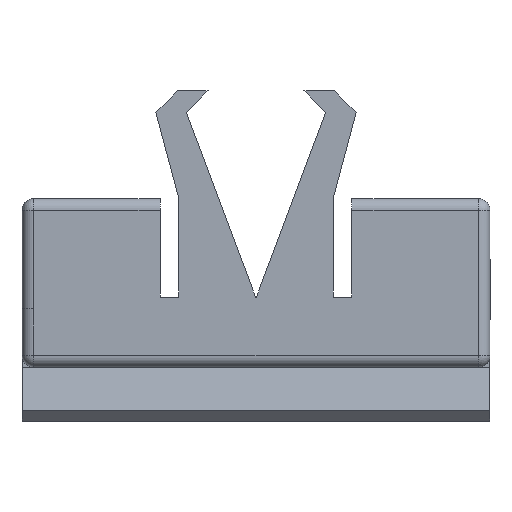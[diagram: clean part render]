
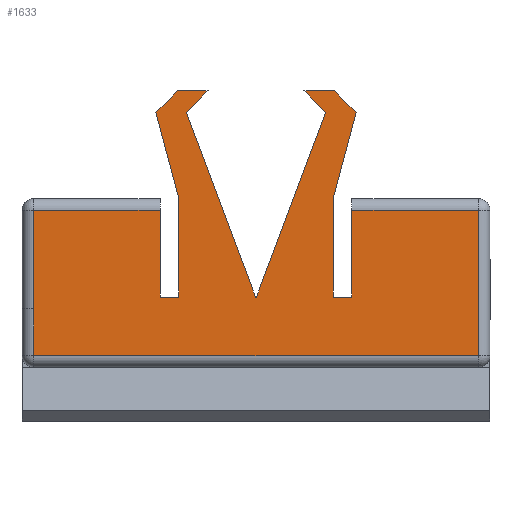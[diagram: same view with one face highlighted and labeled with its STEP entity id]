
A CAD part, left-side view. The second image highlights one B-rep face of the part: STEP entity #1633.
In plain terms, the highlighted planar face has unit normal (-1, 0, 0).
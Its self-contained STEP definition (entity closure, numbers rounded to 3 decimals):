
#138=FACE_OUTER_BOUND('',#227,.T.);
#227=EDGE_LOOP('',(#1306,#1307,#1308,#1309,#1310,#1311,#1312,#1313,#1314,
#1315,#1316,#1317,#1318,#1319,#1320,#1321,#1322,#1323,#1324,#1325,#1326,
#1327,#1328));
#367=LINE('',#2483,#565);
#369=LINE('',#2492,#567);
#391=LINE('',#2565,#589);
#392=LINE('',#2569,#590);
#393=LINE('',#2571,#591);
#394=LINE('',#2573,#592);
#395=LINE('',#2575,#593);
#396=LINE('',#2577,#594);
#397=LINE('',#2579,#595);
#398=LINE('',#2581,#596);
#399=LINE('',#2583,#597);
#400=LINE('',#2585,#598);
#401=LINE('',#2587,#599);
#402=LINE('',#2589,#600);
#403=LINE('',#2591,#601);
#404=LINE('',#2593,#602);
#405=LINE('',#2595,#603);
#406=LINE('',#2597,#604);
#407=LINE('',#2599,#605);
#408=LINE('',#2601,#606);
#409=LINE('',#2603,#607);
#410=LINE('',#2605,#608);
#411=LINE('',#2606,#609);
#565=VECTOR('',#1991,10.);
#567=VECTOR('',#2003,10.);
#589=VECTOR('',#2087,10.);
#590=VECTOR('',#2092,10.);
#591=VECTOR('',#2093,10.);
#592=VECTOR('',#2094,20.);
#593=VECTOR('',#2095,20.);
#594=VECTOR('',#2096,20.);
#595=VECTOR('',#2097,20.);
#596=VECTOR('',#2098,20.);
#597=VECTOR('',#2099,20.);
#598=VECTOR('',#2100,20.);
#599=VECTOR('',#2101,20.);
#600=VECTOR('',#2102,20.);
#601=VECTOR('',#2103,20.);
#602=VECTOR('',#2104,20.);
#603=VECTOR('',#2105,20.);
#604=VECTOR('',#2106,20.);
#605=VECTOR('',#2107,20.);
#606=VECTOR('',#2108,20.);
#607=VECTOR('',#2109,20.);
#608=VECTOR('',#2110,20.);
#609=VECTOR('',#2111,10.);
#735=VERTEX_POINT('',#2478);
#736=VERTEX_POINT('',#2481);
#738=VERTEX_POINT('',#2490);
#758=VERTEX_POINT('',#2564);
#759=VERTEX_POINT('',#2568);
#760=VERTEX_POINT('',#2570);
#761=VERTEX_POINT('',#2572);
#762=VERTEX_POINT('',#2574);
#763=VERTEX_POINT('',#2576);
#764=VERTEX_POINT('',#2578);
#765=VERTEX_POINT('',#2580);
#766=VERTEX_POINT('',#2582);
#767=VERTEX_POINT('',#2584);
#768=VERTEX_POINT('',#2586);
#769=VERTEX_POINT('',#2588);
#770=VERTEX_POINT('',#2590);
#771=VERTEX_POINT('',#2592);
#772=VERTEX_POINT('',#2594);
#773=VERTEX_POINT('',#2596);
#774=VERTEX_POINT('',#2598);
#775=VERTEX_POINT('',#2600);
#776=VERTEX_POINT('',#2602);
#777=VERTEX_POINT('',#2604);
#920=EDGE_CURVE('',#736,#735,#367,.T.);
#925=EDGE_CURVE('',#738,#736,#369,.T.);
#961=EDGE_CURVE('',#735,#758,#391,.T.);
#963=EDGE_CURVE('',#759,#738,#392,.T.);
#964=EDGE_CURVE('',#760,#759,#393,.T.);
#965=EDGE_CURVE('',#760,#761,#394,.T.);
#966=EDGE_CURVE('',#762,#761,#395,.T.);
#967=EDGE_CURVE('',#762,#763,#396,.T.);
#968=EDGE_CURVE('',#763,#764,#397,.T.);
#969=EDGE_CURVE('',#764,#765,#398,.T.);
#970=EDGE_CURVE('',#765,#766,#399,.T.);
#971=EDGE_CURVE('',#766,#767,#400,.T.);
#972=EDGE_CURVE('',#768,#767,#401,.T.);
#973=EDGE_CURVE('',#769,#768,#402,.T.);
#974=EDGE_CURVE('',#769,#770,#403,.T.);
#975=EDGE_CURVE('',#770,#771,#404,.T.);
#976=EDGE_CURVE('',#771,#772,#405,.T.);
#977=EDGE_CURVE('',#772,#773,#406,.T.);
#978=EDGE_CURVE('',#773,#774,#407,.T.);
#979=EDGE_CURVE('',#774,#775,#408,.T.);
#980=EDGE_CURVE('',#775,#776,#409,.T.);
#981=EDGE_CURVE('',#776,#777,#410,.T.);
#982=EDGE_CURVE('',#758,#777,#411,.T.);
#1306=ORIENTED_EDGE('',*,*,#963,.F.);
#1307=ORIENTED_EDGE('',*,*,#964,.F.);
#1308=ORIENTED_EDGE('',*,*,#965,.T.);
#1309=ORIENTED_EDGE('',*,*,#966,.F.);
#1310=ORIENTED_EDGE('',*,*,#967,.T.);
#1311=ORIENTED_EDGE('',*,*,#968,.T.);
#1312=ORIENTED_EDGE('',*,*,#969,.T.);
#1313=ORIENTED_EDGE('',*,*,#970,.T.);
#1314=ORIENTED_EDGE('',*,*,#971,.T.);
#1315=ORIENTED_EDGE('',*,*,#972,.F.);
#1316=ORIENTED_EDGE('',*,*,#973,.F.);
#1317=ORIENTED_EDGE('',*,*,#974,.T.);
#1318=ORIENTED_EDGE('',*,*,#975,.T.);
#1319=ORIENTED_EDGE('',*,*,#976,.T.);
#1320=ORIENTED_EDGE('',*,*,#977,.T.);
#1321=ORIENTED_EDGE('',*,*,#978,.T.);
#1322=ORIENTED_EDGE('',*,*,#979,.T.);
#1323=ORIENTED_EDGE('',*,*,#980,.T.);
#1324=ORIENTED_EDGE('',*,*,#981,.T.);
#1325=ORIENTED_EDGE('',*,*,#982,.F.);
#1326=ORIENTED_EDGE('',*,*,#961,.F.);
#1327=ORIENTED_EDGE('',*,*,#920,.F.);
#1328=ORIENTED_EDGE('',*,*,#925,.F.);
#1556=PLANE('',#1749);
#1633=ADVANCED_FACE('',(#138),#1556,.F.);
#1749=AXIS2_PLACEMENT_3D('',#2567,#2090,#2091);
#1991=DIRECTION('',(0.,0.,1.));
#2003=DIRECTION('',(0.,1.,0.));
#2087=DIRECTION('',(0.,0.,1.));
#2090=DIRECTION('center_axis',(1.,0.,0.));
#2091=DIRECTION('ref_axis',(0.,-1.,0.));
#2092=DIRECTION('',(0.,0.,-1.));
#2093=DIRECTION('',(0.,-1.,0.));
#2094=DIRECTION('',(0.,0.,-1.));
#2095=DIRECTION('',(0.,-1.,0.));
#2096=DIRECTION('',(0.,0.,1.));
#2097=DIRECTION('',(0.,-0.259,0.966));
#2098=DIRECTION('',(0.,0.707,0.707));
#2099=DIRECTION('',(0.,1.,0.));
#2100=DIRECTION('',(0.,-0.707,-0.707));
#2101=DIRECTION('',(0.,-0.351,0.936));
#2102=DIRECTION('',(0.,-1.,0.));
#2103=DIRECTION('',(0.,0.351,0.936));
#2104=DIRECTION('',(0.,-0.707,0.707));
#2105=DIRECTION('',(0.,1.,0.));
#2106=DIRECTION('',(0.,0.707,-0.707));
#2107=DIRECTION('',(0.,-0.259,-0.966));
#2108=DIRECTION('',(0.,0.,-1.));
#2109=DIRECTION('',(0.,1.,0.));
#2110=DIRECTION('',(0.,0.,1.));
#2111=DIRECTION('',(0.,-1.,0.));
#2478=CARTESIAN_POINT('',(-15.,19.5,-1.7));
#2481=CARTESIAN_POINT('',(-15.,19.5,-3.7));
#2483=CARTESIAN_POINT('',(-15.,19.5,1.153));
#2490=CARTESIAN_POINT('',(-15.,0.5,-3.7));
#2492=CARTESIAN_POINT('',(-15.,5.,-3.7));
#2564=CARTESIAN_POINT('',(-15.,19.5,2.5));
#2565=CARTESIAN_POINT('',(-15.,19.5,1.153));
#2567=CARTESIAN_POINT('Origin',(-15.,10.,2.306));
#2568=CARTESIAN_POINT('',(-15.,0.5,2.5));
#2569=CARTESIAN_POINT('',(-15.,0.5,1.153));
#2570=CARTESIAN_POINT('',(-15.,5.9,2.5));
#2571=CARTESIAN_POINT('',(-15.,7.95,2.5));
#2572=CARTESIAN_POINT('',(-15.,5.9,-1.2));
#2573=CARTESIAN_POINT('',(-15.,5.9,3.));
#2574=CARTESIAN_POINT('',(-15.,6.704,-1.2));
#2575=CARTESIAN_POINT('',(-15.,6.704,-1.2));
#2576=CARTESIAN_POINT('',(-15.,6.704,3.));
#2577=CARTESIAN_POINT('',(-15.,6.704,-1.2));
#2578=CARTESIAN_POINT('',(-15.,5.718,6.679));
#2579=CARTESIAN_POINT('',(-15.,6.704,3.));
#2580=CARTESIAN_POINT('',(-15.,6.65,7.611));
#2581=CARTESIAN_POINT('',(-15.,5.718,6.679));
#2582=CARTESIAN_POINT('',(-15.,7.95,7.611));
#2583=CARTESIAN_POINT('',(-15.,6.65,7.611));
#2584=CARTESIAN_POINT('',(-15.,7.023,6.685));
#2585=CARTESIAN_POINT('',(-15.,7.95,7.611));
#2586=CARTESIAN_POINT('',(-15.,9.98,-1.2));
#2587=CARTESIAN_POINT('',(-15.,9.98,-1.2));
#2588=CARTESIAN_POINT('',(-15.,10.02,-1.2));
#2589=CARTESIAN_POINT('',(-15.,10.,-1.2));
#2590=CARTESIAN_POINT('',(-15.,12.977,6.685));
#2591=CARTESIAN_POINT('',(-15.,10.02,-1.2));
#2592=CARTESIAN_POINT('',(-15.,12.05,7.611));
#2593=CARTESIAN_POINT('',(-15.,12.977,6.685));
#2594=CARTESIAN_POINT('',(-15.,13.35,7.611));
#2595=CARTESIAN_POINT('',(-15.,12.05,7.611));
#2596=CARTESIAN_POINT('',(-15.,14.282,6.679));
#2597=CARTESIAN_POINT('',(-15.,13.35,7.611));
#2598=CARTESIAN_POINT('',(-15.,13.296,3.));
#2599=CARTESIAN_POINT('',(-15.,14.282,6.679));
#2600=CARTESIAN_POINT('',(-15.,13.296,-1.2));
#2601=CARTESIAN_POINT('',(-15.,13.296,3.));
#2602=CARTESIAN_POINT('',(-15.,14.1,-1.2));
#2603=CARTESIAN_POINT('',(-15.,13.296,-1.2));
#2604=CARTESIAN_POINT('',(-15.,14.1,2.5));
#2605=CARTESIAN_POINT('',(-15.,14.1,-1.2));
#2606=CARTESIAN_POINT('',(-15.,12.25,2.5));
